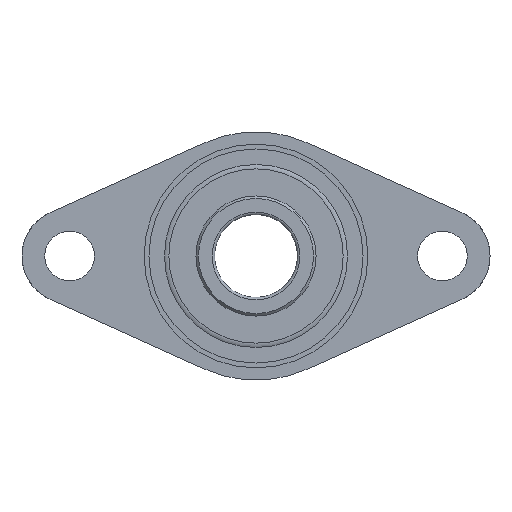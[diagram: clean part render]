
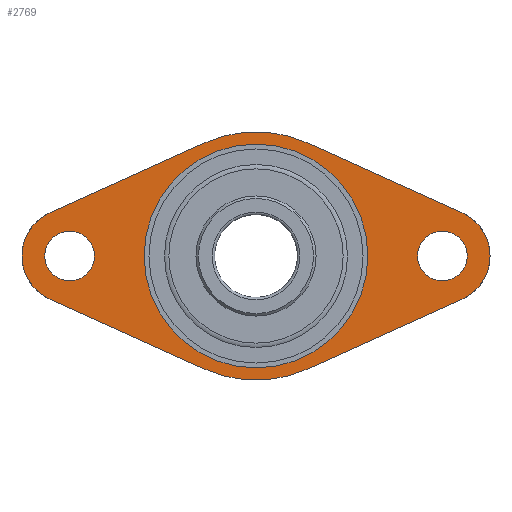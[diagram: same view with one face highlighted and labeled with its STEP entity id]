
A CAD part, left-side view. The second image highlights one B-rep face of the part: STEP entity #2769.
In plain terms, the highlighted planar face has unit normal (-1, 0, 0).
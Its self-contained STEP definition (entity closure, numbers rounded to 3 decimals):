
#10 = VERTEX_POINT ( 'NONE', #407 ) ;
#14 = VERTEX_POINT ( 'NONE', #411 ) ;
#15 = VERTEX_POINT ( 'NONE', #417 ) ;
#164 = FACE_BOUND ( 'NONE', #2519, .T. ) ;
#165 = FACE_OUTER_BOUND ( 'NONE', #1819, .T. ) ;
#170 = FACE_BOUND ( 'NONE', #2104, .T. ) ;
#182 = FACE_BOUND ( 'NONE', #2427, .T. ) ;
#248 = CARTESIAN_POINT ( 'NONE',  ( -15., 49.728, 10.483 ) ) ;
#407 = CARTESIAN_POINT ( 'NONE',  ( -15., 0., -27. ) ) ;
#411 = CARTESIAN_POINT ( 'NONE',  ( -15., 45., -6. ) ) ;
#416 = CARTESIAN_POINT ( 'NONE',  ( -15., -49.728, -10.483 ) ) ;
#417 = CARTESIAN_POINT ( 'NONE',  ( -15., -45., -6. ) ) ;
#457 = VECTOR ( 'NONE', #764, 1000. ) ;
#465 = LINE ( 'NONE', #675, #457 ) ;
#471 = CIRCLE ( 'NONE', #1468, 11.5 ) ;
#478 = VECTOR ( 'NONE', #905, 1000. ) ;
#483 = VECTOR ( 'NONE', #944, 1000. ) ;
#493 = LINE ( 'NONE', #1267, #478 ) ;
#496 = CIRCLE ( 'NONE', #1477, 27. ) ;
#500 = LINE ( 'NONE', #818, #483 ) ;
#532 = CARTESIAN_POINT ( 'NONE',  ( -15., 0., 0. ) ) ;
#537 = DIRECTION ( 'NONE',  ( 1., 0., 0. ) ) ;
#540 = DIRECTION ( 'NONE',  ( 0., 0., -1. ) ) ;
#544 = CIRCLE ( 'NONE', #1504, 6. ) ;
#560 = CIRCLE ( 'NONE', #1498, 6. ) ;
#571 = VECTOR ( 'NONE', #2631, 1000. ) ;
#586 = LINE ( 'NONE', #2677, #571 ) ;
#595 = CIRCLE ( 'NONE', #1538, 30. ) ;
#616 = DIRECTION ( 'NONE',  ( 1., 0., 0. ) ) ;
#627 = CIRCLE ( 'NONE', #1589, 11.5 ) ;
#635 = CIRCLE ( 'NONE', #1633, 30. ) ;
#651 = CARTESIAN_POINT ( 'NONE',  ( -15., -45., 0. ) ) ;
#675 = CARTESIAN_POINT ( 'NONE',  ( -15., -49.728, -10.483 ) ) ;
#705 = DIRECTION ( 'NONE',  ( 1., 0., 0. ) ) ;
#707 = DIRECTION ( 'NONE',  ( 0., 0., -1. ) ) ;
#711 = CARTESIAN_POINT ( 'NONE',  ( -15., 45., 0. ) ) ;
#733 = DIRECTION ( 'NONE',  ( 0., 0., -1. ) ) ;
#764 = DIRECTION ( 'NONE',  ( 0., 0.912, -0.411 ) ) ;
#818 = CARTESIAN_POINT ( 'NONE',  ( -15., -49.728, 10.483 ) ) ;
#842 = DIRECTION ( 'NONE',  ( 0., 0., -1. ) ) ;
#844 = DIRECTION ( 'NONE',  ( 1., 0., 0. ) ) ;
#883 = PLANE ( 'NONE',  #1110 ) ;
#905 = DIRECTION ( 'NONE',  ( 0., -0.912, -0.411 ) ) ;
#909 = CARTESIAN_POINT ( 'NONE',  ( -15., 0., 0. ) ) ;
#944 = DIRECTION ( 'NONE',  ( 0., 0.912, 0.411 ) ) ;
#997 = DIRECTION ( 'NONE',  ( 0., 0., -1. ) ) ;
#1002 = DIRECTION ( 'NONE',  ( 1., 0., 0. ) ) ;
#1005 = CARTESIAN_POINT ( 'NONE',  ( -15., 0., 0. ) ) ;
#1014 = VERTEX_POINT ( 'NONE', #1179 ) ;
#1033 = VERTEX_POINT ( 'NONE', #1190 ) ;
#1099 = DIRECTION ( 'NONE',  ( 1., 0., 0. ) ) ;
#1108 = VERTEX_POINT ( 'NONE', #1248 ) ;
#1110 = AXIS2_PLACEMENT_3D ( 'NONE', #909, #844, #842 ) ;
#1136 = CARTESIAN_POINT ( 'NONE',  ( -15., 0., 0. ) ) ;
#1176 = DIRECTION ( 'NONE',  ( 0., 0., -1. ) ) ;
#1179 = CARTESIAN_POINT ( 'NONE',  ( -15., -12.333, -27.348 ) ) ;
#1190 = CARTESIAN_POINT ( 'NONE',  ( -15., 12.333, -27.348 ) ) ;
#1248 = CARTESIAN_POINT ( 'NONE',  ( -15., 49.728, -10.483 ) ) ;
#1251 = VERTEX_POINT ( 'NONE', #1473 ) ;
#1267 = CARTESIAN_POINT ( 'NONE',  ( -15., 49.728, -10.483 ) ) ;
#1468 = AXIS2_PLACEMENT_3D ( 'NONE', #711, #616, #707 ) ;
#1473 = CARTESIAN_POINT ( 'NONE',  ( -15., 12.333, 27.348 ) ) ;
#1477 = AXIS2_PLACEMENT_3D ( 'NONE', #1005, #1002, #997 ) ;
#1498 = AXIS2_PLACEMENT_3D ( 'NONE', #2077, #2052, #1981 ) ;
#1504 = AXIS2_PLACEMENT_3D ( 'NONE', #1788, #2826, #1771 ) ;
#1538 = AXIS2_PLACEMENT_3D ( 'NONE', #1136, #1099, #1176 ) ;
#1589 = AXIS2_PLACEMENT_3D ( 'NONE', #651, #705, #733 ) ;
#1633 = AXIS2_PLACEMENT_3D ( 'NONE', #532, #537, #540 ) ;
#1655 = VERTEX_POINT ( 'NONE', #1898 ) ;
#1771 = DIRECTION ( 'NONE',  ( 0., 0., -1. ) ) ;
#1782 = VERTEX_POINT ( 'NONE', #2224 ) ;
#1788 = CARTESIAN_POINT ( 'NONE',  ( -15., -45., 0. ) ) ;
#1819 = EDGE_LOOP ( 'NONE', ( #2122, #2107, #2105, #2100, #2084, #2078, #2064, #2053 ) ) ;
#1898 = CARTESIAN_POINT ( 'NONE',  ( -15., -12.333, 27.348 ) ) ;
#1981 = DIRECTION ( 'NONE',  ( 0., 0., -1. ) ) ;
#1996 = VERTEX_POINT ( 'NONE', #248 ) ;
#2052 = DIRECTION ( 'NONE',  ( 1., 0., 0. ) ) ;
#2053 = ORIENTED_EDGE ( 'NONE', *, *, #2241, .F. ) ;
#2064 = ORIENTED_EDGE ( 'NONE', *, *, #2364, .T. ) ;
#2077 = CARTESIAN_POINT ( 'NONE',  ( -15., 45., 0. ) ) ;
#2078 = ORIENTED_EDGE ( 'NONE', *, *, #2378, .F. ) ;
#2084 = ORIENTED_EDGE ( 'NONE', *, *, #2282, .F. ) ;
#2100 = ORIENTED_EDGE ( 'NONE', *, *, #2164, .F. ) ;
#2102 = VERTEX_POINT ( 'NONE', #416 ) ;
#2104 = EDGE_LOOP ( 'NONE', ( #2130 ) ) ;
#2105 = ORIENTED_EDGE ( 'NONE', *, *, #2359, .T. ) ;
#2107 = ORIENTED_EDGE ( 'NONE', *, *, #2187, .F. ) ;
#2122 = ORIENTED_EDGE ( 'NONE', *, *, #2384, .F. ) ;
#2130 = ORIENTED_EDGE ( 'NONE', *, *, #2304, .T. ) ;
#2139 = ORIENTED_EDGE ( 'NONE', *, *, #2296, .T. ) ;
#2144 = ORIENTED_EDGE ( 'NONE', *, *, #2334, .T. ) ;
#2164 = EDGE_CURVE ( 'E214', #1251, #1655, #635, .T. ) ;
#2187 = EDGE_CURVE ( 'E246', #1782, #2102, #627, .T. ) ;
#2224 = CARTESIAN_POINT ( 'NONE',  ( -15., -49.728, 10.483 ) ) ;
#2241 = EDGE_CURVE ( 'E350', #1014, #1033, #595, .T. ) ;
#2282 = EDGE_CURVE ( 'E193', #1996, #1251, #586, .T. ) ;
#2296 = EDGE_CURVE ( 'NONE', #15, #15, #544, .T. ) ;
#2304 = EDGE_CURVE ( 'NONE', #14, #14, #560, .T. ) ;
#2334 = EDGE_CURVE ( 'NONE', #10, #10, #496, .T. ) ;
#2359 = EDGE_CURVE ( 'E240', #1782, #1655, #500, .T. ) ;
#2364 = EDGE_CURVE ( 'E376', #1108, #1033, #493, .T. ) ;
#2378 = EDGE_CURVE ( 'E382', #1108, #1996, #471, .T. ) ;
#2384 = EDGE_CURVE ( 'E329', #2102, #1014, #465, .T. ) ;
#2427 = EDGE_LOOP ( 'NONE', ( #2139 ) ) ;
#2519 = EDGE_LOOP ( 'NONE', ( #2144 ) ) ;
#2631 = DIRECTION ( 'NONE',  ( 0., -0.912, 0.411 ) ) ;
#2677 = CARTESIAN_POINT ( 'NONE',  ( -15., 49.728, 10.483 ) ) ;
#2769 = ADVANCED_FACE ( 'E454', ( #164, #182, #170, #165 ), #883, .F. ) ;
#2826 = DIRECTION ( 'NONE',  ( 1., 0., 0. ) ) ;
